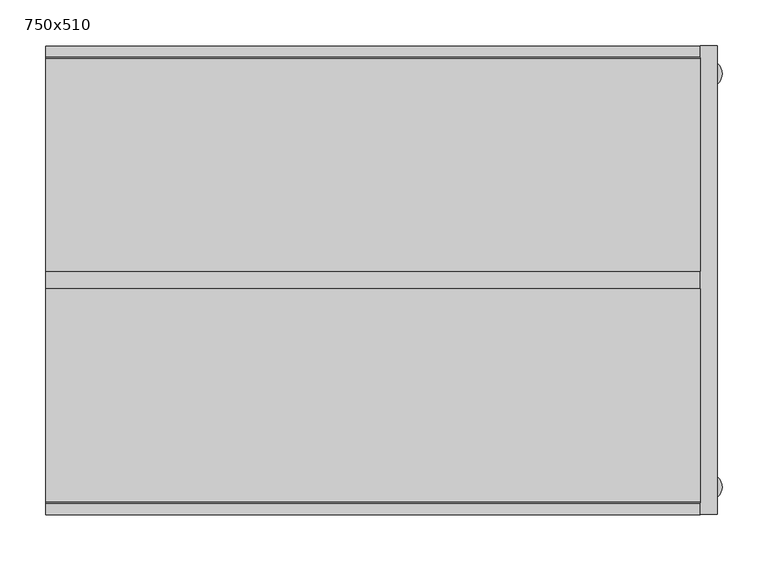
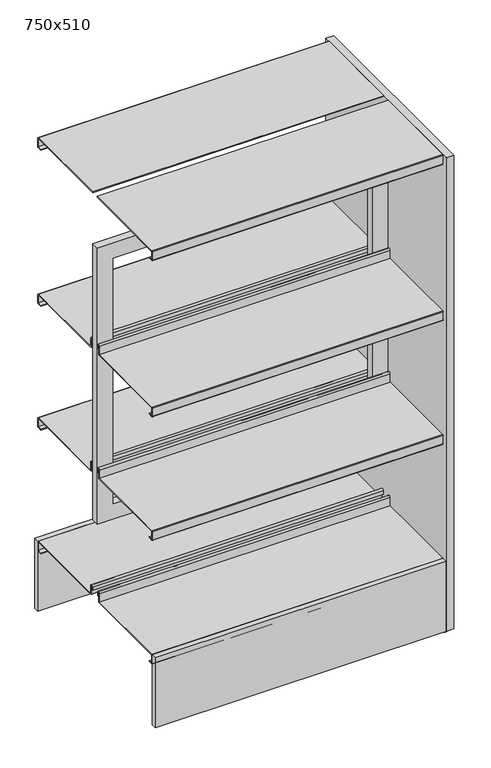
"""IFC4 building model written with IfcOpenShell, lengths in millimetres: furniture geometry, BK Library - Rondus DF - 1240 : 750x510."""

from ifc_helpers import new_model, si_unit, point, frame, frame_2d, origin, origin_with_axes, place, context, project, spatial, polyline, circle_curve, trimmed, segment, composite_curve, outline, extrude, source, transform, mapped, element, save


def furniture_750x510_52655885(model_context):
    return source(origin(), model_context, "Body", "SweptSolid", [
        extrude(outline(polyline([(356.0, 255.0), (356.0, 242.7476624), (-356.0, 242.7476624), (-356.0, 255.0), (356.0, 255.0)])), frame((0.0, 0.0, 13.6999998), z_axis=(0.0, 0.0, 1.0), x_axis=(1.0, 0.0, 0.0)), (0.0, 0.0, 1.0), 181.4999514),
        extrude(outline(polyline([(356.0, -242.7476624), (356.0, -255.0), (-356.0, -255.0), (-356.0, -242.7476624), (356.0, -242.7476624)])), frame((0.0, 0.0, 13.6999998), z_axis=(0.0, 0.0, 1.0), x_axis=(1.0, 0.0, 0.0)), (0.0, 0.0, 1.0), 181.4999514),
        extrude(outline(polyline([(1106.1999512, -356.0), (391.1999512, -356.0), (391.1999512, 356.0), (1106.1999512, 356.0), (1106.1999512, -356.0)]), holes=[polyline([(1066.1999514, -317.5), (1066.1999514, 317.5), (431.1999514, 317.5), (431.1999514, -317.5), (1066.1999514, -317.5)])]), frame((0.0, -9.5, 0.0), z_axis=(0.0, 1.0, 0.0), x_axis=(0.0, 0.0, 1.0)), (0.0, 0.0, 1.0), 19.0),
        extrude(outline(composite_curve([segment(polyline([(9.5, 1240.0), (241.25, 1240.0)]), True, "CONTINUOUS"), segment(trimmed(circle_curve(frame_2d((241.25, 1238.5)), 1.5), [point((241.25, 1240.0))], [point((242.75, 1238.5))], False, "CARTESIAN"), True, "CONTINUOUS"), segment(polyline([(242.75, 1238.5), (242.75, 1216.5)]), True, "CONTINUOUS"), segment(trimmed(circle_curve(frame_2d((241.25, 1216.5)), 1.5), [point((242.75, 1216.5))], [point((241.25, 1215.0))], False, "CARTESIAN"), True, "CONTINUOUS"), segment(polyline([(241.25, 1215.0), (229.25, 1215.0), (229.25, 1216.5), (241.25, 1216.5), (241.25, 1238.0), (9.5, 1238.0), (9.5, 1240.0)]), True, "CONTINUOUS")], self_intersect=False)), frame((-356.0, 0.0, 0.0), z_axis=(1.0, 0.0, 0.0), x_axis=(0.0, 1.0, 0.0)), (0.0, 0.0, 1.0), 712.0),
        extrude(outline(composite_curve([segment(polyline([(17.75, 835.1999512), (241.25, 835.1999512)]), True, "CONTINUOUS"), segment(trimmed(circle_curve(frame_2d((241.25, 833.6999512)), 1.5), [point((241.25, 835.1999512))], [point((242.75, 833.6999512))], False, "CARTESIAN"), True, "CONTINUOUS"), segment(polyline([(242.75, 833.6999512), (242.75, 812.1999512)]), True, "CONTINUOUS"), segment(trimmed(circle_curve(frame_2d((241.25, 812.1999512)), 1.5), [point((242.75, 812.1999512))], [point((241.25, 810.6999512))], False, "CARTESIAN"), True, "CONTINUOUS"), segment(polyline([(241.25, 810.6999512), (229.25, 810.6999512), (229.25, 812.1999512), (241.25, 812.1999512), (241.25, 833.6999512), (17.7048221, 833.6999512)]), True, "CONTINUOUS"), segment(trimmed(circle_curve(frame_2d((17.7048221, 835.1547733)), 1.4548221), [point((17.7048221, 833.6999512))], [point((16.25, 835.1547733))], False, "CARTESIAN"), True, "CONTINUOUS"), segment(polyline([(16.25, 835.1547733), (16.25, 856.7020126)]), True, "CONTINUOUS"), segment(trimmed(circle_curve(frame_2d((14.25, 856.7020126)), 2.0), [point((16.25, 856.7020126))], [point((12.25, 856.7020126))], True, "CARTESIAN"), True, "CONTINUOUS"), segment(polyline([(12.25, 856.7020126), (12.25, 848.1999512), (10.75, 848.1999512), (10.75, 856.7196336)]), True, "CONTINUOUS"), segment(trimmed(circle_curve(frame_2d((14.25, 856.7196336)), 3.5), [point((10.75, 856.7196336))], [point((17.75, 856.7196336))], False, "CARTESIAN"), True, "CONTINUOUS"), segment(polyline([(17.75, 856.7196336), (17.75, 835.1999512)]), True, "CONTINUOUS")], self_intersect=False)), frame((-356.0, 0.0, 0.0), z_axis=(1.0, 0.0, 0.0), x_axis=(0.0, 1.0, 0.0)), (0.0, 0.0, 1.0), 712.0),
        extrude(outline(composite_curve([segment(polyline([(17.75, 515.1999512), (241.25, 515.1999512)]), True, "CONTINUOUS"), segment(trimmed(circle_curve(frame_2d((241.25, 513.6999512)), 1.5), [point((241.25, 515.1999512))], [point((242.75, 513.6999512))], False, "CARTESIAN"), True, "CONTINUOUS"), segment(polyline([(242.75, 513.6999512), (242.75, 492.1999512)]), True, "CONTINUOUS"), segment(trimmed(circle_curve(frame_2d((241.25, 492.1999512)), 1.5), [point((242.75, 492.1999512))], [point((241.25, 490.6999512))], False, "CARTESIAN"), True, "CONTINUOUS"), segment(polyline([(241.25, 490.6999512), (229.25, 490.6999512), (229.25, 492.1999512), (241.25, 492.1999512), (241.25, 513.6999512), (17.7048221, 513.6999512)]), True, "CONTINUOUS"), segment(trimmed(circle_curve(frame_2d((17.7048221, 515.1547733)), 1.4548221), [point((17.7048221, 513.6999512))], [point((16.25, 515.1547733))], False, "CARTESIAN"), True, "CONTINUOUS"), segment(polyline([(16.25, 515.1547733), (16.25, 536.7020126)]), True, "CONTINUOUS"), segment(trimmed(circle_curve(frame_2d((14.25, 536.7020126)), 2.0), [point((16.25, 536.7020126))], [point((12.25, 536.7020126))], True, "CARTESIAN"), True, "CONTINUOUS"), segment(polyline([(12.25, 536.7020126), (12.25, 528.1999512), (10.75, 528.1999512), (10.75, 536.7196336)]), True, "CONTINUOUS"), segment(trimmed(circle_curve(frame_2d((14.25, 536.7196336)), 3.5), [point((10.75, 536.7196336))], [point((17.75, 536.7196336))], False, "CARTESIAN"), True, "CONTINUOUS"), segment(polyline([(17.75, 536.7196336), (17.75, 515.1999512)]), True, "CONTINUOUS")], self_intersect=False)), frame((-356.0, 0.0, 0.0), z_axis=(1.0, 0.0, 0.0), x_axis=(0.0, 1.0, 0.0)), (0.0, 0.0, 1.0), 712.0),
        extrude(outline(composite_curve([segment(polyline([(17.75, 195.1999512), (241.25, 195.1999512)]), True, "CONTINUOUS"), segment(trimmed(circle_curve(frame_2d((241.25, 193.6999512)), 1.5), [point((241.25, 195.1999512))], [point((242.75, 193.6999512))], False, "CARTESIAN"), True, "CONTINUOUS"), segment(polyline([(242.75, 193.6999512), (242.75, 172.1999512)]), True, "CONTINUOUS"), segment(trimmed(circle_curve(frame_2d((241.25, 172.1999512)), 1.5), [point((242.75, 172.1999512))], [point((241.25, 170.6999512))], False, "CARTESIAN"), True, "CONTINUOUS"), segment(polyline([(241.25, 170.6999512), (229.25, 170.6999512), (229.25, 172.1999512), (241.25, 172.1999512), (241.25, 193.6999512), (17.7048221, 193.6999512)]), True, "CONTINUOUS"), segment(trimmed(circle_curve(frame_2d((17.7048221, 195.1547733)), 1.4548221), [point((17.7048221, 193.6999512))], [point((16.25, 195.1547733))], False, "CARTESIAN"), True, "CONTINUOUS"), segment(polyline([(16.25, 195.1547733), (16.25, 216.7020126)]), True, "CONTINUOUS"), segment(trimmed(circle_curve(frame_2d((14.25, 216.7020126)), 2.0), [point((16.25, 216.7020126))], [point((12.25, 216.7020126))], True, "CARTESIAN"), True, "CONTINUOUS"), segment(polyline([(12.25, 216.7020126), (12.25, 208.1999512), (10.75, 208.1999512), (10.75, 216.7196336)]), True, "CONTINUOUS"), segment(trimmed(circle_curve(frame_2d((14.25, 216.7196336)), 3.5), [point((10.75, 216.7196336))], [point((17.75, 216.7196336))], False, "CARTESIAN"), True, "CONTINUOUS"), segment(polyline([(17.75, 216.7196336), (17.75, 195.1999512)]), True, "CONTINUOUS")], self_intersect=False)), frame((-356.0, 0.0, 0.0), z_axis=(1.0, 0.0, 0.0), x_axis=(0.0, 1.0, 0.0)), (0.0, 0.0, 1.0), 712.0),
        extrude(outline(composite_curve([segment(polyline([(-9.5, 1240.0), (-9.5, 1238.0), (-241.25, 1238.0), (-241.25, 1216.5), (-229.25, 1216.5), (-229.25, 1215.0), (-241.25, 1215.0)]), True, "CONTINUOUS"), segment(trimmed(circle_curve(frame_2d((-241.25, 1216.5)), 1.5), [point((-241.25, 1215.0))], [point((-242.75, 1216.5))], False, "CARTESIAN"), True, "CONTINUOUS"), segment(polyline([(-242.75, 1216.5), (-242.75, 1238.5)]), True, "CONTINUOUS"), segment(trimmed(circle_curve(frame_2d((-241.25, 1238.5)), 1.5), [point((-242.75, 1238.5))], [point((-241.25, 1240.0))], False, "CARTESIAN"), True, "CONTINUOUS"), segment(polyline([(-241.25, 1240.0), (-9.5, 1240.0)]), True, "CONTINUOUS")], self_intersect=False)), frame((-356.0, 0.0, 0.0), z_axis=(1.0, 0.0, 0.0), x_axis=(0.0, 1.0, 0.0)), (0.0, 0.0, 1.0), 712.0),
        extrude(outline(composite_curve([segment(polyline([(-17.75, 835.1999512), (-17.75, 856.7196336)]), True, "CONTINUOUS"), segment(trimmed(circle_curve(frame_2d((-14.25, 856.7196336)), 3.5), [point((-17.75, 856.7196336))], [point((-10.75, 856.7196336))], False, "CARTESIAN"), True, "CONTINUOUS"), segment(polyline([(-10.75, 856.7196336), (-10.75, 848.1999512), (-12.25, 848.1999512), (-12.25, 856.7020126)]), True, "CONTINUOUS"), segment(trimmed(circle_curve(frame_2d((-14.25, 856.7020126)), 2.0), [point((-12.25, 856.7020126))], [point((-16.25, 856.7020126))], True, "CARTESIAN"), True, "CONTINUOUS"), segment(polyline([(-16.25, 856.7020126), (-16.25, 835.1547733)]), True, "CONTINUOUS"), segment(trimmed(circle_curve(frame_2d((-17.7048221, 835.1547733)), 1.4548221), [point((-16.25, 835.1547733))], [point((-17.7048221, 833.6999512))], False, "CARTESIAN"), True, "CONTINUOUS"), segment(polyline([(-17.7048221, 833.6999512), (-241.25, 833.6999512), (-241.25, 812.1999512), (-229.25, 812.1999512), (-229.25, 810.6999512), (-241.25, 810.6999512)]), True, "CONTINUOUS"), segment(trimmed(circle_curve(frame_2d((-241.25, 812.1999512)), 1.5), [point((-241.25, 810.6999512))], [point((-242.75, 812.1999512))], False, "CARTESIAN"), True, "CONTINUOUS"), segment(polyline([(-242.75, 812.1999512), (-242.75, 833.6999512)]), True, "CONTINUOUS"), segment(trimmed(circle_curve(frame_2d((-241.25, 833.6999512)), 1.5), [point((-242.75, 833.6999512))], [point((-241.25, 835.1999512))], False, "CARTESIAN"), True, "CONTINUOUS"), segment(polyline([(-241.25, 835.1999512), (-17.75, 835.1999512)]), True, "CONTINUOUS")], self_intersect=False)), frame((-356.0, 0.0, 0.0), z_axis=(1.0, 0.0, 0.0), x_axis=(0.0, 1.0, 0.0)), (0.0, 0.0, 1.0), 712.0),
        extrude(outline(composite_curve([segment(polyline([(-17.75, 515.1999512), (-17.75, 536.7196336)]), True, "CONTINUOUS"), segment(trimmed(circle_curve(frame_2d((-14.25, 536.7196336)), 3.5), [point((-17.75, 536.7196336))], [point((-10.75, 536.7196336))], False, "CARTESIAN"), True, "CONTINUOUS"), segment(polyline([(-10.75, 536.7196336), (-10.75, 528.1999512), (-12.25, 528.1999512), (-12.25, 536.7020126)]), True, "CONTINUOUS"), segment(trimmed(circle_curve(frame_2d((-14.25, 536.7020126)), 2.0), [point((-12.25, 536.7020126))], [point((-16.25, 536.7020126))], True, "CARTESIAN"), True, "CONTINUOUS"), segment(polyline([(-16.25, 536.7020126), (-16.25, 515.1547733)]), True, "CONTINUOUS"), segment(trimmed(circle_curve(frame_2d((-17.7048221, 515.1547733)), 1.4548221), [point((-16.25, 515.1547733))], [point((-17.7048221, 513.6999512))], False, "CARTESIAN"), True, "CONTINUOUS"), segment(polyline([(-17.7048221, 513.6999512), (-241.25, 513.6999512), (-241.25, 492.1999512), (-229.25, 492.1999512), (-229.25, 490.6999512), (-241.25, 490.6999512)]), True, "CONTINUOUS"), segment(trimmed(circle_curve(frame_2d((-241.25, 492.1999512)), 1.5), [point((-241.25, 490.6999512))], [point((-242.75, 492.1999512))], False, "CARTESIAN"), True, "CONTINUOUS"), segment(polyline([(-242.75, 492.1999512), (-242.75, 513.6999512)]), True, "CONTINUOUS"), segment(trimmed(circle_curve(frame_2d((-241.25, 513.6999512)), 1.5), [point((-242.75, 513.6999512))], [point((-241.25, 515.1999512))], False, "CARTESIAN"), True, "CONTINUOUS"), segment(polyline([(-241.25, 515.1999512), (-17.75, 515.1999512)]), True, "CONTINUOUS")], self_intersect=False)), frame((-356.0, 0.0, 0.0), z_axis=(1.0, 0.0, 0.0), x_axis=(0.0, 1.0, 0.0)), (0.0, 0.0, 1.0), 712.0),
        extrude(outline(composite_curve([segment(polyline([(-17.75, 195.1999512), (-17.75, 216.7196336)]), True, "CONTINUOUS"), segment(trimmed(circle_curve(frame_2d((-14.25, 216.7196336)), 3.5), [point((-17.75, 216.7196336))], [point((-10.75, 216.7196336))], False, "CARTESIAN"), True, "CONTINUOUS"), segment(polyline([(-10.75, 216.7196336), (-10.75, 208.1999512), (-12.25, 208.1999512), (-12.25, 216.7020126)]), True, "CONTINUOUS"), segment(trimmed(circle_curve(frame_2d((-14.25, 216.7020126)), 2.0), [point((-12.25, 216.7020126))], [point((-16.25, 216.7020126))], True, "CARTESIAN"), True, "CONTINUOUS"), segment(polyline([(-16.25, 216.7020126), (-16.25, 195.1547733)]), True, "CONTINUOUS"), segment(trimmed(circle_curve(frame_2d((-17.7048221, 195.1547733)), 1.4548221), [point((-16.25, 195.1547733))], [point((-17.7048221, 193.6999512))], False, "CARTESIAN"), True, "CONTINUOUS"), segment(polyline([(-17.7048221, 193.6999512), (-241.25, 193.6999512), (-241.25, 172.1999512), (-229.25, 172.1999512), (-229.25, 170.6999512), (-241.25, 170.6999512)]), True, "CONTINUOUS"), segment(trimmed(circle_curve(frame_2d((-241.25, 172.1999512)), 1.5), [point((-241.25, 170.6999512))], [point((-242.75, 172.1999512))], False, "CARTESIAN"), True, "CONTINUOUS"), segment(polyline([(-242.75, 172.1999512), (-242.75, 193.6999512)]), True, "CONTINUOUS"), segment(trimmed(circle_curve(frame_2d((-241.25, 193.6999512)), 1.5), [point((-242.75, 193.6999512))], [point((-241.25, 195.1999512))], False, "CARTESIAN"), True, "CONTINUOUS"), segment(polyline([(-241.25, 195.1999512), (-17.75, 195.1999512)]), True, "CONTINUOUS")], self_intersect=False)), frame((-356.0, 0.0, 0.0), z_axis=(1.0, 0.0, 0.0), x_axis=(0.0, 1.0, 0.0)), (0.0, 0.0, 1.0), 712.0),
        extrude(outline(polyline([(356.0, 255.0), (375.0, 255.0), (375.0, -255.0), (356.0, -255.0), (356.0, 255.0)])), frame((0.0, 0.0, 13.6999998), z_axis=(0.0, 0.0, 1.0), x_axis=(1.0, 0.0, 0.0)), (0.0, 0.0, 1.0), 1226.3000002),
        extrude(outline(composite_curve([segment(trimmed(circle_curve(frame_2d((365.5005427, 224.9952633)), 14.4994573), [point((380.0, 224.9952633))], [point((351.0010853, 224.9952633))], False, "CARTESIAN"), True, "CONTINUOUS"), segment(trimmed(circle_curve(frame_2d((365.5005427, 224.9952633)), 14.4994573), [point((351.0010853, 224.9952633))], [point((380.0, 224.9952633))], False, "CARTESIAN"), True, "CONTINUOUS")], self_intersect=False)), origin_with_axes(), (0.0, 0.0, 1.0), 13.6999998),
        extrude(outline(composite_curve([segment(trimmed(circle_curve(frame_2d((365.5005427, -224.9952633)), 14.4994573), [point((380.0, -224.9952633))], [point((351.0010853, -224.9952633))], False, "CARTESIAN"), True, "CONTINUOUS"), segment(trimmed(circle_curve(frame_2d((365.5005427, -224.9952633)), 14.4994573), [point((351.0010853, -224.9952633))], [point((380.0, -224.9952633))], False, "CARTESIAN"), True, "CONTINUOUS")], self_intersect=False)), origin_with_axes(), (0.0, 0.0, 1.0), 13.6999998),
    ])


if __name__ == "__main__":
    model = new_model("IFC4")
    model_context = context("Model", 3, world=origin())
    ifc_project = project(units=[si_unit("LENGTHUNIT", "METRE", prefix="MILLI")], contexts=[model_context])
    site = spatial("IfcSite", under=ifc_project)
    building = spatial("IfcBuilding", under=site)
    placement = place(None, origin())
    furniture_750x510_shape = furniture_750x510_52655885(model_context)
    element("IfcFurniture", 1, ObjectType="BK Library - Rondus DF - 1240 : 750x510", at=placement, inside=building, context=model_context, shape_type="MappedRepresentation", body=[
        mapped(furniture_750x510_shape, transform((0.0, 0.0, 0.0), x_axis=(1.0, 0.0, 0.0), y_axis=(0.0, 1.0, 0.0), z_axis=(0.0, 0.0, 1.0))),
    ])
    save(model, "model.ifc")
